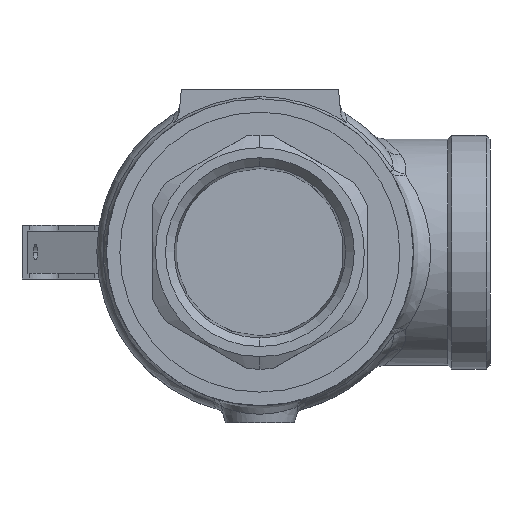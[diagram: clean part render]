
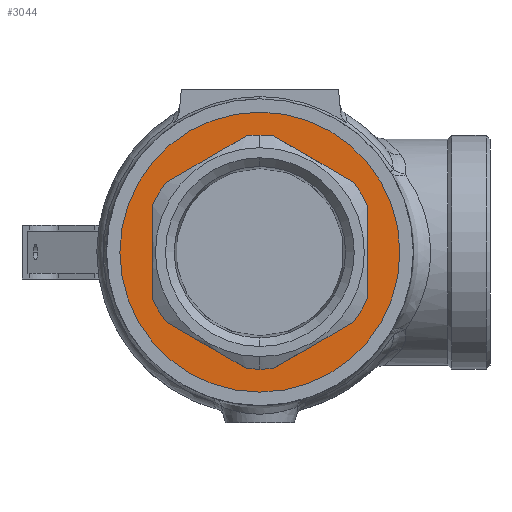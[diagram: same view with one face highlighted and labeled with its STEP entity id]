
A CAD part, front view. The second image highlights one B-rep face of the part: STEP entity #3044.
In plain terms, the highlighted planar face has unit normal (0, -1, 0).
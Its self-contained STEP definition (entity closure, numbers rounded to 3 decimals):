
#7 = DIRECTION ( 'NONE',  ( 0.866, 0., 0.5 ) ) ;
#16 = DIRECTION ( 'NONE',  ( 0., 0., -1. ) ) ;
#45 = VERTEX_POINT ( 'NONE', #4767 ) ;
#106 = CARTESIAN_POINT ( 'NONE',  ( 3.527, -38.5, 30.295 ) ) ;
#132 = ORIENTED_EDGE ( 'NONE', *, *, #4057, .F. ) ;
#149 = EDGE_CURVE ( 'NONE', #4547, #6417, #1422, .T. ) ;
#153 = VERTEX_POINT ( 'NONE', #2834 ) ;
#200 = CARTESIAN_POINT ( 'NONE',  ( -3.527, -38.5, 30.295 ) ) ;
#258 = EDGE_CURVE ( 'NONE', #6417, #7003, #1289, .T. ) ;
#286 = ORIENTED_EDGE ( 'NONE', *, *, #2187, .F. ) ;
#393 = ORIENTED_EDGE ( 'NONE', *, *, #4569, .F. ) ;
#479 = VECTOR ( 'NONE', #7, 1000. ) ;
#568 = CIRCLE ( 'NONE', #919, 36.5 ) ;
#571 = DIRECTION ( 'NONE',  ( 0., -1., 0. ) ) ;
#586 = ORIENTED_EDGE ( 'NONE', *, *, #3602, .F. ) ;
#593 = VERTEX_POINT ( 'NONE', #2575 ) ;
#747 = DIRECTION ( 'NONE',  ( 0., -1., 0. ) ) ;
#808 = ORIENTED_EDGE ( 'NONE', *, *, #1800, .F. ) ;
#904 = CIRCLE ( 'NONE', #1819, 30.5 ) ;
#919 = AXIS2_PLACEMENT_3D ( 'NONE', #4503, #6753, #3505 ) ;
#930 = AXIS2_PLACEMENT_3D ( 'NONE', #3218, #2026, #6361 ) ;
#952 = CARTESIAN_POINT ( 'NONE',  ( -36.5, -38.5, 0. ) ) ;
#989 = ORIENTED_EDGE ( 'NONE', *, *, #4939, .F. ) ;
#1034 = DIRECTION ( 'NONE',  ( 0., -1., 0. ) ) ;
#1081 = FACE_BOUND ( 'NONE', #1571, .T. ) ;
#1233 = CARTESIAN_POINT ( 'NONE',  ( -13.375, -38.5, -40.054 ) ) ;
#1289 = CIRCLE ( 'NONE', #5271, 30.5 ) ;
#1391 = VECTOR ( 'NONE', #3103, 1000. ) ;
#1422 = CIRCLE ( 'NONE', #4355, 30.5 ) ;
#1495 = DIRECTION ( 'NONE',  ( 0., 0., -1. ) ) ;
#1571 = EDGE_LOOP ( 'NONE', ( #5590, #5795, #4746, #5598, #3477, #393, #5503, #4609, #808, #6406, #132, #2528, #586 ) ) ;
#1717 = CARTESIAN_POINT ( 'NONE',  ( -41.375, -38.5, 8.444 ) ) ;
#1724 = DIRECTION ( 'NONE',  ( 0., 0., -1. ) ) ;
#1776 = CARTESIAN_POINT ( 'NONE',  ( 28., -38.5, 12.093 ) ) ;
#1800 = EDGE_CURVE ( 'NONE', #3463, #4547, #5871, .T. ) ;
#1807 = EDGE_CURVE ( 'NONE', #2384, #2746, #904, .T. ) ;
#1819 = AXIS2_PLACEMENT_3D ( 'NONE', #6408, #5395, #1495 ) ;
#1824 = CARTESIAN_POINT ( 'NONE',  ( 0., -38.5, -36.5 ) ) ;
#1846 = EDGE_CURVE ( 'NONE', #2313, #2384, #3132, .T. ) ;
#1921 = CARTESIAN_POINT ( 'NONE',  ( 0., -38.5, 0. ) ) ;
#2026 = DIRECTION ( 'NONE',  ( 0., 1., 0. ) ) ;
#2096 = DIRECTION ( 'NONE',  ( 0., 0., -1. ) ) ;
#2187 = EDGE_CURVE ( 'NONE', #593, #4233, #4794, .T. ) ;
#2284 = DIRECTION ( 'NONE',  ( 0., 0., -1. ) ) ;
#2313 = VERTEX_POINT ( 'NONE', #5287 ) ;
#2384 = VERTEX_POINT ( 'NONE', #106 ) ;
#2520 = AXIS2_PLACEMENT_3D ( 'NONE', #2722, #571, #1724 ) ;
#2522 = VECTOR ( 'NONE', #3264, 1000. ) ;
#2528 = ORIENTED_EDGE ( 'NONE', *, *, #5290, .F. ) ;
#2552 = CARTESIAN_POINT ( 'NONE',  ( 3.527, -38.5, -30.295 ) ) ;
#2575 = CARTESIAN_POINT ( 'NONE',  ( 0., -38.5, 36.5 ) ) ;
#2638 = EDGE_CURVE ( 'NONE', #153, #3463, #3163, .T. ) ;
#2700 = CARTESIAN_POINT ( 'NONE',  ( -3.527, -38.5, -30.295 ) ) ;
#2722 = CARTESIAN_POINT ( 'NONE',  ( 0., -38.5, 0. ) ) ;
#2738 = CIRCLE ( 'NONE', #6721, 30.5 ) ;
#2746 = VERTEX_POINT ( 'NONE', #200 ) ;
#2800 = CARTESIAN_POINT ( 'NONE',  ( 0., -38.5, 0. ) ) ;
#2809 = DIRECTION ( 'NONE',  ( 0., 0., -1. ) ) ;
#2834 = CARTESIAN_POINT ( 'NONE',  ( -28., -38.5, -12.093 ) ) ;
#2965 = CARTESIAN_POINT ( 'NONE',  ( 0., -38.5, -30.5 ) ) ;
#3044 = ADVANCED_FACE ( 'NONE', ( #1081, #6499 ), #6933, .T. ) ;
#3103 = DIRECTION ( 'NONE',  ( 0., 0., 1. ) ) ;
#3132 = LINE ( 'NONE', #6943, #2522 ) ;
#3155 = DIRECTION ( 'NONE',  ( 0., -1., 0. ) ) ;
#3163 = CIRCLE ( 'NONE', #6003, 30.5 ) ;
#3218 = CARTESIAN_POINT ( 'NONE',  ( 0., -38.5, 0. ) ) ;
#3264 = DIRECTION ( 'NONE',  ( -0.866, 0., 0.5 ) ) ;
#3351 = CARTESIAN_POINT ( 'NONE',  ( 0., -38.5, 0. ) ) ;
#3367 = DIRECTION ( 'NONE',  ( 0., -1., 0. ) ) ;
#3463 = VERTEX_POINT ( 'NONE', #6201 ) ;
#3477 = ORIENTED_EDGE ( 'NONE', *, *, #4840, .F. ) ;
#3505 = DIRECTION ( 'NONE',  ( 0., 0., 1. ) ) ;
#3599 = EDGE_CURVE ( 'NONE', #4666, #2313, #5980, .T. ) ;
#3602 = EDGE_CURVE ( 'NONE', #2746, #4493, #4451, .T. ) ;
#3671 = LINE ( 'NONE', #6304, #1391 ) ;
#3698 = DIRECTION ( 'NONE',  ( 0., 0., -1. ) ) ;
#3735 = CARTESIAN_POINT ( 'NONE',  ( -24.473, -38.5, 18.202 ) ) ;
#3736 = CARTESIAN_POINT ( 'NONE',  ( -41.375, -38.5, -8.444 ) ) ;
#3866 = DIRECTION ( 'NONE',  ( 0., 0., -1. ) ) ;
#3973 = VECTOR ( 'NONE', #7039, 1000. ) ;
#3979 = CARTESIAN_POINT ( 'NONE',  ( 0., -38.5, 0. ) ) ;
#4057 = EDGE_CURVE ( 'NONE', #45, #153, #6046, .T. ) ;
#4233 = VERTEX_POINT ( 'NONE', #1824 ) ;
#4355 = AXIS2_PLACEMENT_3D ( 'NONE', #2800, #3367, #3866 ) ;
#4451 = LINE ( 'NONE', #1717, #5865 ) ;
#4493 = VERTEX_POINT ( 'NONE', #3735 ) ;
#4503 = CARTESIAN_POINT ( 'NONE',  ( 0., -38.5, 0. ) ) ;
#4511 = VERTEX_POINT ( 'NONE', #5394 ) ;
#4547 = VERTEX_POINT ( 'NONE', #2700 ) ;
#4553 = VERTEX_POINT ( 'NONE', #4867 ) ;
#4569 = EDGE_CURVE ( 'NONE', #7003, #4511, #6043, .T. ) ;
#4609 = ORIENTED_EDGE ( 'NONE', *, *, #149, .F. ) ;
#4666 = VERTEX_POINT ( 'NONE', #1776 ) ;
#4746 = ORIENTED_EDGE ( 'NONE', *, *, #3599, .F. ) ;
#4767 = CARTESIAN_POINT ( 'NONE',  ( -28., -38.5, 12.093 ) ) ;
#4794 = CIRCLE ( 'NONE', #930, 36.5 ) ;
#4840 = EDGE_CURVE ( 'NONE', #4511, #4553, #2738, .T. ) ;
#4867 = CARTESIAN_POINT ( 'NONE',  ( 28., -38.5, -12.093 ) ) ;
#4939 = EDGE_CURVE ( 'NONE', #4233, #593, #568, .T. ) ;
#5182 = AXIS2_PLACEMENT_3D ( 'NONE', #3351, #747, #2284 ) ;
#5243 = CIRCLE ( 'NONE', #2520, 30.5 ) ;
#5271 = AXIS2_PLACEMENT_3D ( 'NONE', #1921, #6862, #5718 ) ;
#5287 = CARTESIAN_POINT ( 'NONE',  ( 24.473, -38.5, 18.202 ) ) ;
#5290 = EDGE_CURVE ( 'NONE', #4493, #45, #5243, .T. ) ;
#5369 = CARTESIAN_POINT ( 'NONE',  ( 0., -38.5, 0. ) ) ;
#5394 = CARTESIAN_POINT ( 'NONE',  ( 24.473, -38.5, -18.202 ) ) ;
#5395 = DIRECTION ( 'NONE',  ( 0., -1., 0. ) ) ;
#5503 = ORIENTED_EDGE ( 'NONE', *, *, #258, .F. ) ;
#5521 = DIRECTION ( 'NONE',  ( -0.866, 0., -0.5 ) ) ;
#5590 = ORIENTED_EDGE ( 'NONE', *, *, #1807, .F. ) ;
#5598 = ORIENTED_EDGE ( 'NONE', *, *, #6562, .F. ) ;
#5718 = DIRECTION ( 'NONE',  ( 0., 0., -1. ) ) ;
#5757 = AXIS2_PLACEMENT_3D ( 'NONE', #952, #3155, #2096 ) ;
#5795 = ORIENTED_EDGE ( 'NONE', *, *, #1846, .F. ) ;
#5865 = VECTOR ( 'NONE', #5521, 1000. ) ;
#5871 = LINE ( 'NONE', #3736, #3973 ) ;
#5980 = CIRCLE ( 'NONE', #5182, 30.5 ) ;
#6003 = AXIS2_PLACEMENT_3D ( 'NONE', #5369, #1034, #16 ) ;
#6043 = LINE ( 'NONE', #1233, #479 ) ;
#6046 = LINE ( 'NONE', #6688, #6881 ) ;
#6148 = DIRECTION ( 'NONE',  ( 0., -1., 0. ) ) ;
#6201 = CARTESIAN_POINT ( 'NONE',  ( -24.473, -38.5, -18.202 ) ) ;
#6304 = CARTESIAN_POINT ( 'NONE',  ( 28., -38.5, 0. ) ) ;
#6361 = DIRECTION ( 'NONE',  ( 0., 0., 1. ) ) ;
#6406 = ORIENTED_EDGE ( 'NONE', *, *, #2638, .F. ) ;
#6408 = CARTESIAN_POINT ( 'NONE',  ( 0., -38.5, 0. ) ) ;
#6417 = VERTEX_POINT ( 'NONE', #2965 ) ;
#6499 = FACE_OUTER_BOUND ( 'NONE', #6782, .T. ) ;
#6562 = EDGE_CURVE ( 'NONE', #4553, #4666, #3671, .T. ) ;
#6688 = CARTESIAN_POINT ( 'NONE',  ( -28., -38.5, 0. ) ) ;
#6721 = AXIS2_PLACEMENT_3D ( 'NONE', #3979, #6148, #3698 ) ;
#6753 = DIRECTION ( 'NONE',  ( 0., 1., 0. ) ) ;
#6782 = EDGE_LOOP ( 'NONE', ( #286, #989 ) ) ;
#6862 = DIRECTION ( 'NONE',  ( 0., -1., 0. ) ) ;
#6881 = VECTOR ( 'NONE', #2809, 1000. ) ;
#6933 = PLANE ( 'NONE',  #5757 ) ;
#6943 = CARTESIAN_POINT ( 'NONE',  ( -13.375, -38.5, 40.054 ) ) ;
#7003 = VERTEX_POINT ( 'NONE', #2552 ) ;
#7039 = DIRECTION ( 'NONE',  ( 0.866, 0., -0.5 ) ) ;
